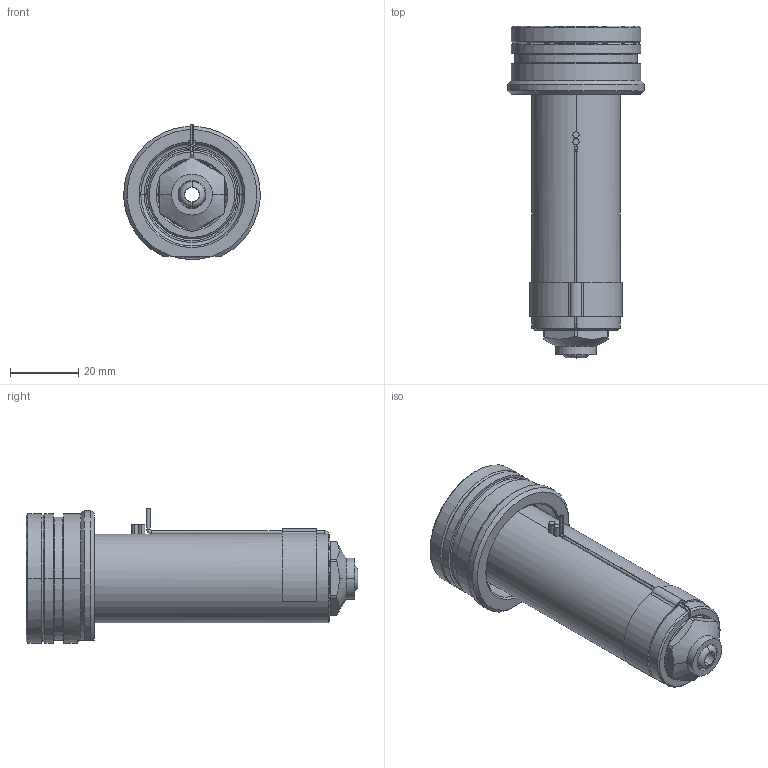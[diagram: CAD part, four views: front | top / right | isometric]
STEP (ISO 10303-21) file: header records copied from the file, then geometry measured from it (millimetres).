
FILE_DESCRIPTION((''),'2;1');
FILE_NAME('EO08_VG-BL_WR_080_SW','2024-02-19T13:06:46',('sundharh'),(''),'CREO PARAMETRIC BY PTC INC, 2023154','CREO PARAMETRIC BY PTC INC, 2023154','');
FILE_SCHEMA(('CONFIG_CONTROL_DESIGN'));
Length unit declared in the file: millimetre
Products named in the file (1): EO08_VG-BL_WR_080_SW
Bounding box: 39.88 x 97.2 x 39.52 mm (x, y, z)
Volume: 53955.4 mm3; surface area: 16857.3 mm2
Topology: 1 solids, 1 shells, 197 faces, 483 edges, 292 vertices
Faces by surface type: cylinder 72, plane 45, cone 39, torus 27, bspline 12, sphere 2
Entity records: 7150 total; most frequent: CARTESIAN_POINT 2417, DIRECTION 1055, ORIENTED_EDGE 958, EDGE_CURVE 479, AXIS2_PLACEMENT_3D 442, VERTEX_POINT 292, CIRCLE 257, EDGE_LOOP 213
